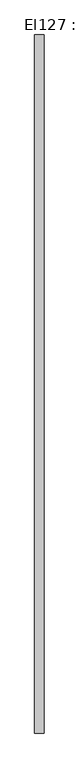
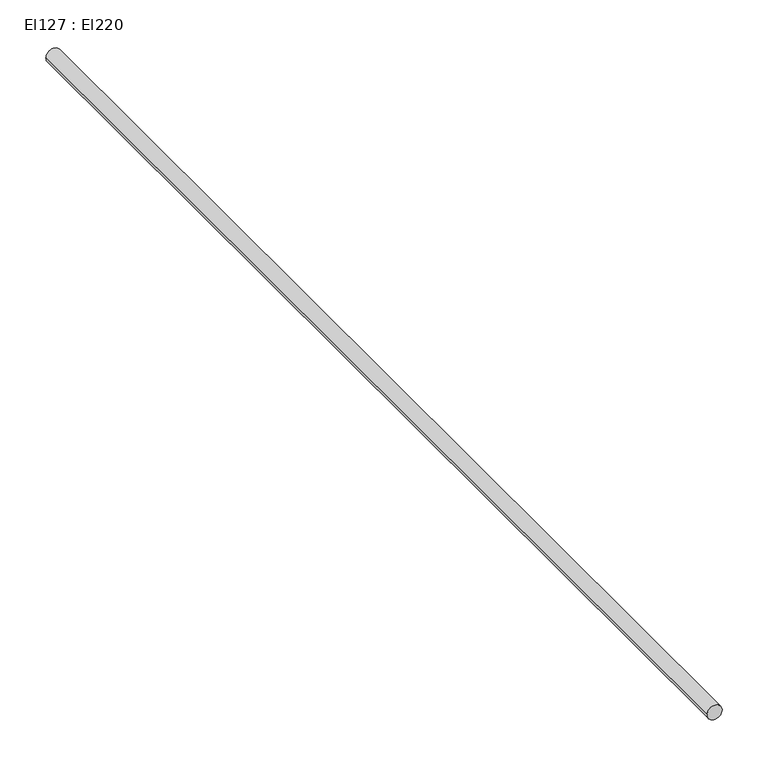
"""IFC4 building model written with IfcOpenShell, lengths in millimetres: cable carrier segment geometry, El127 : El220."""

from ifc_helpers import new_model, si_unit, point, frame, frame_2d, origin, place, context, project, spatial, circle_curve, trimmed, segment, composite_curve, outline, extrude, source, transform, mapped, element, save


def el127_el220_7d6977bb(model_context):
    return source(origin(), model_context, "Body", "SweptSolid", [
        extrude(outline(composite_curve([segment(trimmed(circle_curve(frame_2d((1800.0, 2764.4746511)), 9.5), [point((1800.0, 2754.9746511))], [point((1800.0, 2773.9746511))], False, "CARTESIAN"), True, "CONTINUOUS"), segment(trimmed(circle_curve(frame_2d((1800.0, 2764.4746511)), 9.5), [point((1800.0, 2773.9746511))], [point((1800.0, 2754.9746511))], False, "CARTESIAN"), True, "CONTINUOUS")], self_intersect=False)), frame((0.0, 15195.5421745, 0.0), z_axis=(0.0, 1.0, 0.0), x_axis=(0.0, 0.0, 1.0)), (0.0, 0.0, 1.0), 1441.74),
    ])


if __name__ == "__main__":
    model = new_model("IFC4")
    model_context = context("Model", 3, world=origin())
    ifc_project = project(units=[si_unit("LENGTHUNIT", "METRE", prefix="MILLI")], contexts=[model_context])
    site = spatial("IfcSite", under=ifc_project)
    building = spatial("IfcBuilding", under=site)
    placement = place(None, origin())
    el127_el220_shape = el127_el220_7d6977bb(model_context)
    element("IfcCableCarrierSegment", 1, ObjectType="El127 : El220", at=placement, inside=building, context=model_context, shape_type="MappedRepresentation", body=[
        mapped(el127_el220_shape, transform((0.0, 0.0, 0.0), x_axis=(1.0, 0.0, 0.0), y_axis=(0.0, 1.0, 0.0), z_axis=(0.0, 0.0, 1.0))),
    ])
    save(model, "model.ifc")
